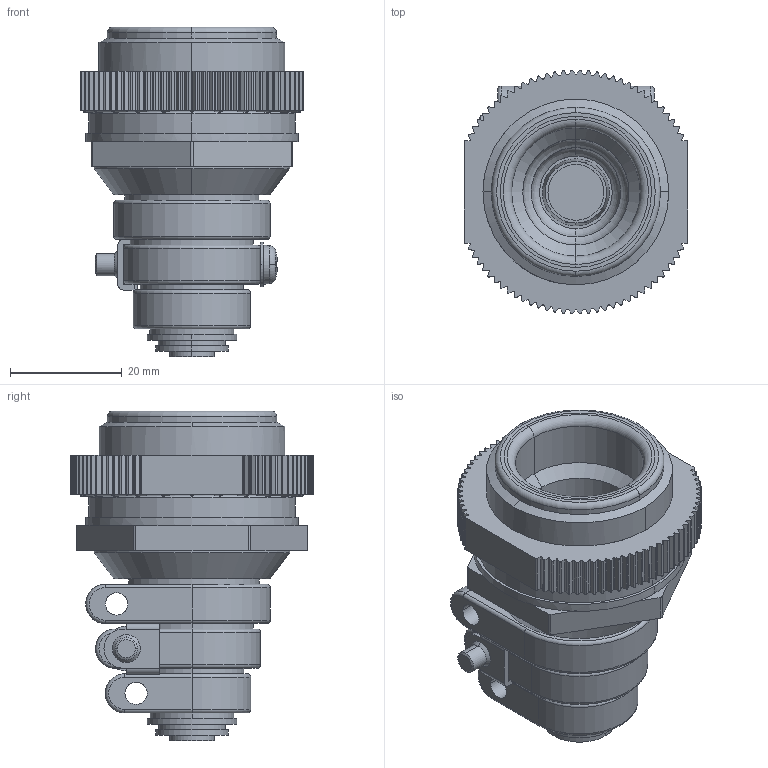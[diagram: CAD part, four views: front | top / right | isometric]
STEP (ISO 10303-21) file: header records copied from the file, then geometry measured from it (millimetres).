
FILE_DESCRIPTION(('Creo Elements/Direct Modeling STEP Export'),'2;1');
FILE_NAME('20130717_OA-2.stp','2013-09-18T15:57:47',(''),(''),'Creo Elements/Direct Modeling STEP processor for AP214 (Solid Model)','Creo Elements/Direct Modeling 18.1B 29-Sep-2012 (C) Parametric Technology GmbH','');
FILE_SCHEMA(('AUTOMOTIVE_DESIGN { 1 0 10303 214 1 1 1 1 }'));
Length unit declared in the file: millimetre
Products named in the file (6): M4_プレスナット; 平ワッシャー; OA-2_本体; OA-2_ロックナット; M4_なべ小ねじ; OA-2
Assembly tree (5 placements, depth 2):
  OA-2
    M4_なべ小ねじ
    OA-2_ロックナット
    OA-2_本体
    平ワッシャー
    M4_プレスナット
Bounding box: 40 x 43.62 x 59 mm (x, y, z)
Volume: 30494.7 mm3; surface area: 17579.1 mm2
Topology: 5 solids, 5 shells, 653 faces, 1798 edges, 1168 vertices
Faces by surface type: plane 250, cylinder 249, bspline 106, torus 26, cone 20, sphere 2
Entity records: 32281 total; most frequent: CARTESIAN_POINT 16545, ORIENTED_EDGE 3596, DIRECTION 2906, EDGE_CURVE 1798, VERTEX_POINT 1168, AXIS2_PLACEMENT_3D 1032, VECTOR 842, LINE 842
